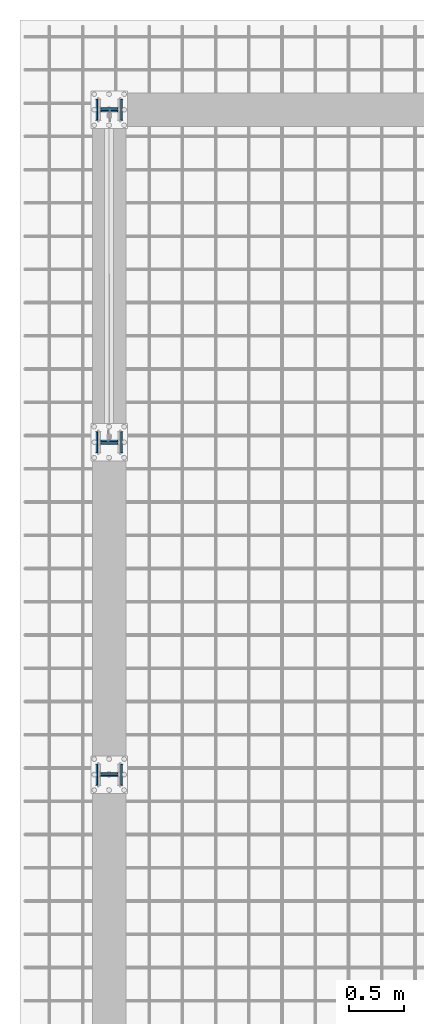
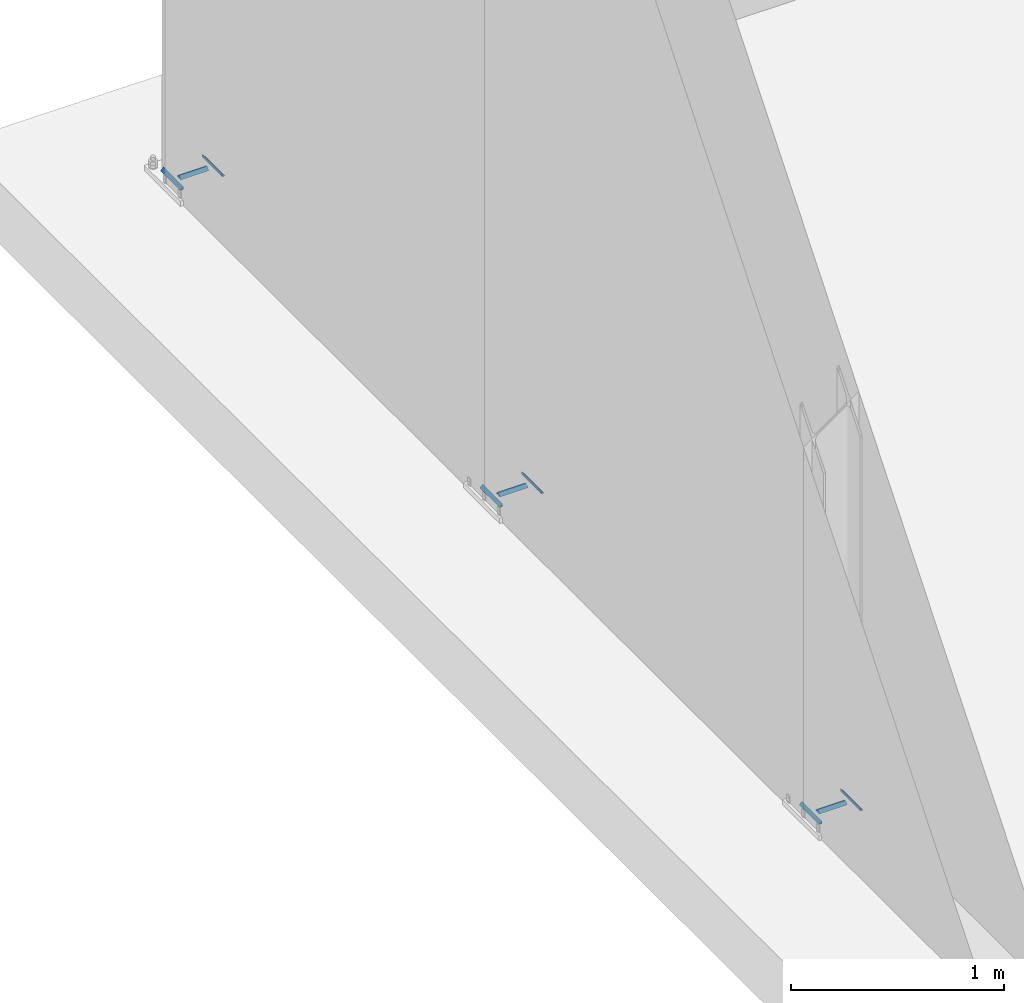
# One storey, part 9 of 29: 24 fasteners.
"""IFC4 building model written with IfcOpenShell, lengths in metres."""

from ifc_helpers import new_model, si_unit, frame, origin_with_axes, place, context, project, spatial, polyline, outline, extrude, type_object, element, save


model = new_model("IFC4")

# Units and contexts
model_context = context("Model", 3, precision=1e-05, world=origin_with_axes())
ifc_project = project(units=[si_unit("LENGTHUNIT", "METRE"), si_unit("AREAUNIT", "SQUARE_METRE"), si_unit("VOLUMEUNIT", "CUBIC_METRE"), si_unit("MASSUNIT", "GRAM", prefix="KILO"), si_unit("TIMEUNIT", "SECOND"), si_unit("PLANEANGLEUNIT", "RADIAN"), si_unit("SOLIDANGLEUNIT", "STERADIAN"), si_unit("THERMODYNAMICTEMPERATUREUNIT", "DEGREE_CELSIUS")], contexts=[model_context])

# Site, building, storey
placement_1 = place(None, origin_with_axes())
site = spatial("IfcSite", under=ifc_project, at=placement_1, Name="Italia", CompositionType="ELEMENT")
building = spatial("IfcBuilding", under=site, at=placement_1, Name="Capannone", CompositionType="ELEMENT")
storey = spatial("IfcBuildingStorey", under=building, at=placement_1, Name="Storey 0", CompositionType="ELEMENT", Elevation=0.0)

# Fasteners
fastener_type_1 = type_object("IfcFastenerType", Name="Collegamenti 0001_0101 0002_0102 0003_0103 0004_0104 0005_0105 0006_0106 0007_0107 0008_0108 0009_0109 0010_0110 0011_0111 0012_0112", PredefinedType="WELD")
placement_2 = place(placement_1, origin_with_axes())
fastener_1_placement = place(placement_2, origin_with_axes())
element("IfcFastener", 1, at=fastener_1_placement, inside=storey, type_object=fastener_type_1, Name="Collegamenti 0001_0101 0002_0102 0003_0103 0004_0104 0005_0105 0006_0106 0007_0107 0008_0108 0009_0109 0010_0110 0011_0111 0012_0112", context=model_context, shape_type="SweptSolid", body=[
    extrude(outline(polyline([(0.0, 0.0), (0.0156882, 0.0161734), (0.0156882, 0.0), (0.0, 0.0)])), frame((-0.120638, 9.09405, 0.02995), z_axis=(0.0, -1.0, 0.0), x_axis=(1.0, 0.0, 0.0)), (0.0, 0.0, 1.0), 0.188101),
])
fastener_type_2 = type_object("IfcFastenerType", Name="Collegamenti 0001_0101 0002_0102 0003_0103 0004_0104 0005_0105 0006_0106 0007_0107 0008_0108 0009_0109 0010_0110 0011_0111 0012_0112", PredefinedType="WELD")
fastener_2_placement = place(placement_2, origin_with_axes())
element("IfcFastener", 2, at=fastener_2_placement, inside=storey, type_object=fastener_type_2, Name="Collegamenti 0001_0101 0002_0102 0003_0103 0004_0104 0005_0105 0006_0106 0007_0107 0008_0108 0009_0109 0010_0110 0011_0111 0012_0112", context=model_context, shape_type="SweptSolid", body=[
    extrude(outline(polyline([(0.0, 0.0), (0.0156882, 0.0161734), (0.0156882, 0.0), (0.0, 0.0)])), frame((0.120638, 8.90595, 0.02995), z_axis=(0.0, 1.0, 0.0), x_axis=(-1.0, 0.0, 0.0)), (0.0, 0.0, 1.0), 0.188101),
])
fastener_type_3 = type_object("IfcFastenerType", Name="Collegamenti 0001_0101 0002_0102 0003_0103 0004_0104 0005_0105 0006_0106 0007_0107 0008_0108 0009_0109 0010_0110 0011_0111 0012_0112", PredefinedType="WELD")
fastener_3_placement = place(placement_2, origin_with_axes())
element("IfcFastener", 3, at=fastener_3_placement, inside=storey, type_object=fastener_type_3, Name="Collegamenti 0001_0101 0002_0102 0003_0103 0004_0104 0005_0105 0006_0106 0007_0107 0008_0108 0009_0109 0010_0110 0011_0111 0012_0112", context=model_context, shape_type="SweptSolid", body=[
    extrude(outline(polyline([(0.0, 0.0), (0.0156879, 0.0161734), (0.0156879, 0.0), (0.0, 0.0)])), frame((0.07605, 9.01914, 0.02995), z_axis=(-1.0, 0.0, 0.0), x_axis=(0.0, -1.0, 0.0)), (0.0, 0.0, 1.0), 0.1521),
])
fastener_type_4 = type_object("IfcFastenerType", Name="Collegamenti 0001_0101 0002_0102 0003_0103 0004_0104 0005_0105 0006_0106 0007_0107 0008_0108 0009_0109 0010_0110 0011_0111 0012_0112", PredefinedType="WELD")
fastener_4_placement = place(placement_2, origin_with_axes())
element("IfcFastener", 4, at=fastener_4_placement, inside=storey, type_object=fastener_type_4, Name="Collegamenti 0001_0101 0002_0102 0003_0103 0004_0104 0005_0105 0006_0106 0007_0107 0008_0108 0009_0109 0010_0110 0011_0111 0012_0112", context=model_context, shape_type="SweptSolid", body=[
    extrude(outline(polyline([(0.0, 0.0), (0.0156879, 0.0161734), (0.0156879, 0.0), (0.0, 0.0)])), frame((-0.07605, 8.98086, 0.02995), z_axis=(1.0, 0.0, 0.0), x_axis=(0.0, 1.0, 0.0)), (0.0, 0.0, 1.0), 0.1521),
])
fastener_type_5 = type_object("IfcFastenerType", Name="Collegamenti 0001_0101 0002_0102 0003_0103 0004_0104 0005_0105 0006_0106 0007_0107 0008_0108 0009_0109 0010_0110 0011_0111 0012_0112", PredefinedType="WELD")
fastener_5_placement = place(placement_2, origin_with_axes())
element("IfcFastener", 5, at=fastener_5_placement, inside=storey, type_object=fastener_type_5, Name="Collegamenti 0001_0101 0002_0102 0003_0103 0004_0104 0005_0105 0006_0106 0007_0107 0008_0108 0009_0109 0010_0110 0011_0111 0012_0112", context=model_context, shape_type="SweptSolid", body=[
    extrude(outline(polyline([(0.0, 0.0), (0.0156882, 0.0161734), (0.0156882, 0.0), (0.0, 0.0)])), frame((-0.120638, 9.09405, 0.02995), z_axis=(0.0, -1.0, 0.0), x_axis=(1.0, 0.0, 0.0)), (0.0, 0.0, 1.0), 0.188101),
])
fastener_type_6 = type_object("IfcFastenerType", Name="Collegamenti 0001_0101 0002_0102 0003_0103 0004_0104 0005_0105 0006_0106 0007_0107 0008_0108 0009_0109 0010_0110 0011_0111 0012_0112", PredefinedType="WELD")
fastener_6_placement = place(placement_2, origin_with_axes())
element("IfcFastener", 6, at=fastener_6_placement, inside=storey, type_object=fastener_type_6, Name="Collegamenti 0001_0101 0002_0102 0003_0103 0004_0104 0005_0105 0006_0106 0007_0107 0008_0108 0009_0109 0010_0110 0011_0111 0012_0112", context=model_context, shape_type="SweptSolid", body=[
    extrude(outline(polyline([(0.0, 0.0), (0.0156882, 0.0161734), (0.0156882, 0.0), (0.0, 0.0)])), frame((0.120638, 8.90595, 0.02995), z_axis=(0.0, 1.0, 0.0), x_axis=(-1.0, 0.0, 0.0)), (0.0, 0.0, 1.0), 0.188101),
])
fastener_type_7 = type_object("IfcFastenerType", Name="Collegamenti 0001_0101 0002_0102 0003_0103 0004_0104 0005_0105 0006_0106 0007_0107 0008_0108 0009_0109 0010_0110 0011_0111 0012_0112", PredefinedType="WELD")
fastener_7_placement = place(placement_2, origin_with_axes())
element("IfcFastener", 7, at=fastener_7_placement, inside=storey, type_object=fastener_type_7, Name="Collegamenti 0001_0101 0002_0102 0003_0103 0004_0104 0005_0105 0006_0106 0007_0107 0008_0108 0009_0109 0010_0110 0011_0111 0012_0112", context=model_context, shape_type="SweptSolid", body=[
    extrude(outline(polyline([(0.0, 0.0), (0.0156879, 0.0161734), (0.0156879, 0.0), (0.0, 0.0)])), frame((0.07605, 9.01914, 0.02995), z_axis=(-1.0, 0.0, 0.0), x_axis=(0.0, -1.0, 0.0)), (0.0, 0.0, 1.0), 0.1521),
])
fastener_type_8 = type_object("IfcFastenerType", Name="Collegamenti 0001_0101 0002_0102 0003_0103 0004_0104 0005_0105 0006_0106 0007_0107 0008_0108 0009_0109 0010_0110 0011_0111 0012_0112", PredefinedType="WELD")
fastener_8_placement = place(placement_2, origin_with_axes())
element("IfcFastener", 8, at=fastener_8_placement, inside=storey, type_object=fastener_type_8, Name="Collegamenti 0001_0101 0002_0102 0003_0103 0004_0104 0005_0105 0006_0106 0007_0107 0008_0108 0009_0109 0010_0110 0011_0111 0012_0112", context=model_context, shape_type="SweptSolid", body=[
    extrude(outline(polyline([(0.0, 0.0), (0.0156879, 0.0161734), (0.0156879, 0.0), (0.0, 0.0)])), frame((-0.07605, 8.98086, 0.02995), z_axis=(1.0, 0.0, 0.0), x_axis=(0.0, 1.0, 0.0)), (0.0, 0.0, 1.0), 0.1521),
])
fastener_type_9 = type_object("IfcFastenerType", Name="Collegamenti 0001_0101 0002_0102 0003_0103 0004_0104 0005_0105 0006_0106 0007_0107 0008_0108 0009_0109 0010_0110 0011_0111 0012_0112", PredefinedType="WELD")
fastener_9_placement = place(placement_2, origin_with_axes())
element("IfcFastener", 9, at=fastener_9_placement, inside=storey, type_object=fastener_type_9, Name="Collegamenti 0001_0101 0002_0102 0003_0103 0004_0104 0005_0105 0006_0106 0007_0107 0008_0108 0009_0109 0010_0110 0011_0111 0012_0112", context=model_context, shape_type="SweptSolid", body=[
    extrude(outline(polyline([(0.0, 0.0), (0.0156882, 0.0161734), (0.0156882, 0.0), (0.0, 0.0)])), frame((-0.120638, 12.0941, 0.02995), z_axis=(0.0, -1.0, 0.0), x_axis=(1.0, 0.0, 0.0)), (0.0, 0.0, 1.0), 0.188101),
])
fastener_type_10 = type_object("IfcFastenerType", Name="Collegamenti 0001_0101 0002_0102 0003_0103 0004_0104 0005_0105 0006_0106 0007_0107 0008_0108 0009_0109 0010_0110 0011_0111 0012_0112", PredefinedType="WELD")
fastener_10_placement = place(placement_2, origin_with_axes())
element("IfcFastener", 10, at=fastener_10_placement, inside=storey, type_object=fastener_type_10, Name="Collegamenti 0001_0101 0002_0102 0003_0103 0004_0104 0005_0105 0006_0106 0007_0107 0008_0108 0009_0109 0010_0110 0011_0111 0012_0112", context=model_context, shape_type="SweptSolid", body=[
    extrude(outline(polyline([(0.0, 0.0), (0.0156882, 0.0161734), (0.0156882, 0.0), (0.0, 0.0)])), frame((0.120638, 11.9059, 0.02995), z_axis=(0.0, 1.0, 0.0), x_axis=(-1.0, 0.0, 0.0)), (0.0, 0.0, 1.0), 0.188101),
])
fastener_type_11 = type_object("IfcFastenerType", Name="Collegamenti 0001_0101 0002_0102 0003_0103 0004_0104 0005_0105 0006_0106 0007_0107 0008_0108 0009_0109 0010_0110 0011_0111 0012_0112", PredefinedType="WELD")
fastener_11_placement = place(placement_2, origin_with_axes())
element("IfcFastener", 11, at=fastener_11_placement, inside=storey, type_object=fastener_type_11, Name="Collegamenti 0001_0101 0002_0102 0003_0103 0004_0104 0005_0105 0006_0106 0007_0107 0008_0108 0009_0109 0010_0110 0011_0111 0012_0112", context=model_context, shape_type="SweptSolid", body=[
    extrude(outline(polyline([(0.0, 0.0), (0.0156879, 0.0161734), (0.0156879, 0.0), (0.0, 0.0)])), frame((0.07605, 12.0191, 0.02995), z_axis=(-1.0, 0.0, 0.0), x_axis=(0.0, -1.0, 0.0)), (0.0, 0.0, 1.0), 0.1521),
])
fastener_type_12 = type_object("IfcFastenerType", Name="Collegamenti 0001_0101 0002_0102 0003_0103 0004_0104 0005_0105 0006_0106 0007_0107 0008_0108 0009_0109 0010_0110 0011_0111 0012_0112", PredefinedType="WELD")
fastener_12_placement = place(placement_2, origin_with_axes())
element("IfcFastener", 12, at=fastener_12_placement, inside=storey, type_object=fastener_type_12, Name="Collegamenti 0001_0101 0002_0102 0003_0103 0004_0104 0005_0105 0006_0106 0007_0107 0008_0108 0009_0109 0010_0110 0011_0111 0012_0112", context=model_context, shape_type="SweptSolid", body=[
    extrude(outline(polyline([(0.0, 0.0), (0.0156879, 0.0161734), (0.0156879, 0.0), (0.0, 0.0)])), frame((-0.07605, 11.9809, 0.02995), z_axis=(1.0, 0.0, 0.0), x_axis=(0.0, 1.0, 0.0)), (0.0, 0.0, 1.0), 0.1521),
])
fastener_type_13 = type_object("IfcFastenerType", Name="Collegamenti 0001_0101 0002_0102 0003_0103 0004_0104 0005_0105 0006_0106 0007_0107 0008_0108 0009_0109 0010_0110 0011_0111 0012_0112", PredefinedType="WELD")
fastener_13_placement = place(placement_2, origin_with_axes())
element("IfcFastener", 13, at=fastener_13_placement, inside=storey, type_object=fastener_type_13, Name="Collegamenti 0001_0101 0002_0102 0003_0103 0004_0104 0005_0105 0006_0106 0007_0107 0008_0108 0009_0109 0010_0110 0011_0111 0012_0112", context=model_context, shape_type="SweptSolid", body=[
    extrude(outline(polyline([(0.0, 0.0), (0.0156882, 0.0161734), (0.0156882, 0.0), (0.0, 0.0)])), frame((-0.120638, 12.0941, 0.02995), z_axis=(0.0, -1.0, 0.0), x_axis=(1.0, 0.0, 0.0)), (0.0, 0.0, 1.0), 0.188101),
])
fastener_type_14 = type_object("IfcFastenerType", Name="Collegamenti 0001_0101 0002_0102 0003_0103 0004_0104 0005_0105 0006_0106 0007_0107 0008_0108 0009_0109 0010_0110 0011_0111 0012_0112", PredefinedType="WELD")
fastener_14_placement = place(placement_2, origin_with_axes())
element("IfcFastener", 14, at=fastener_14_placement, inside=storey, type_object=fastener_type_14, Name="Collegamenti 0001_0101 0002_0102 0003_0103 0004_0104 0005_0105 0006_0106 0007_0107 0008_0108 0009_0109 0010_0110 0011_0111 0012_0112", context=model_context, shape_type="SweptSolid", body=[
    extrude(outline(polyline([(0.0, 0.0), (0.0156882, 0.0161734), (0.0156882, 0.0), (0.0, 0.0)])), frame((0.120638, 11.9059, 0.02995), z_axis=(0.0, 1.0, 0.0), x_axis=(-1.0, 0.0, 0.0)), (0.0, 0.0, 1.0), 0.188101),
])
fastener_type_15 = type_object("IfcFastenerType", Name="Collegamenti 0001_0101 0002_0102 0003_0103 0004_0104 0005_0105 0006_0106 0007_0107 0008_0108 0009_0109 0010_0110 0011_0111 0012_0112", PredefinedType="WELD")
fastener_15_placement = place(placement_2, origin_with_axes())
element("IfcFastener", 15, at=fastener_15_placement, inside=storey, type_object=fastener_type_15, Name="Collegamenti 0001_0101 0002_0102 0003_0103 0004_0104 0005_0105 0006_0106 0007_0107 0008_0108 0009_0109 0010_0110 0011_0111 0012_0112", context=model_context, shape_type="SweptSolid", body=[
    extrude(outline(polyline([(0.0, 0.0), (0.0156879, 0.0161734), (0.0156879, 0.0), (0.0, 0.0)])), frame((0.07605, 12.0191, 0.02995), z_axis=(-1.0, 0.0, 0.0), x_axis=(0.0, -1.0, 0.0)), (0.0, 0.0, 1.0), 0.1521),
])
fastener_type_16 = type_object("IfcFastenerType", Name="Collegamenti 0001_0101 0002_0102 0003_0103 0004_0104 0005_0105 0006_0106 0007_0107 0008_0108 0009_0109 0010_0110 0011_0111 0012_0112", PredefinedType="WELD")
fastener_16_placement = place(placement_2, origin_with_axes())
element("IfcFastener", 16, at=fastener_16_placement, inside=storey, type_object=fastener_type_16, Name="Collegamenti 0001_0101 0002_0102 0003_0103 0004_0104 0005_0105 0006_0106 0007_0107 0008_0108 0009_0109 0010_0110 0011_0111 0012_0112", context=model_context, shape_type="SweptSolid", body=[
    extrude(outline(polyline([(0.0, 0.0), (0.0156879, 0.0161734), (0.0156879, 0.0), (0.0, 0.0)])), frame((-0.07605, 11.9809, 0.02995), z_axis=(1.0, 0.0, 0.0), x_axis=(0.0, 1.0, 0.0)), (0.0, 0.0, 1.0), 0.1521),
])
fastener_type_17 = type_object("IfcFastenerType", Name="Collegamenti 0001_0101 0002_0102 0003_0103 0004_0104 0005_0105 0006_0106 0007_0107 0008_0108 0009_0109 0010_0110 0011_0111 0012_0112", PredefinedType="WELD")
fastener_17_placement = place(placement_2, origin_with_axes())
element("IfcFastener", 17, at=fastener_17_placement, inside=storey, type_object=fastener_type_17, Name="Collegamenti 0001_0101 0002_0102 0003_0103 0004_0104 0005_0105 0006_0106 0007_0107 0008_0108 0009_0109 0010_0110 0011_0111 0012_0112", context=model_context, shape_type="SweptSolid", body=[
    extrude(outline(polyline([(0.0, 0.0), (0.0156882, 0.0161734), (0.0156882, 0.0), (0.0, 0.0)])), frame((-0.120638, 15.0941, 0.02995), z_axis=(0.0, -1.0, 0.0), x_axis=(1.0, 0.0, 0.0)), (0.0, 0.0, 1.0), 0.188101),
])
fastener_type_18 = type_object("IfcFastenerType", Name="Collegamenti 0001_0101 0002_0102 0003_0103 0004_0104 0005_0105 0006_0106 0007_0107 0008_0108 0009_0109 0010_0110 0011_0111 0012_0112", PredefinedType="WELD")
fastener_18_placement = place(placement_2, origin_with_axes())
element("IfcFastener", 18, at=fastener_18_placement, inside=storey, type_object=fastener_type_18, Name="Collegamenti 0001_0101 0002_0102 0003_0103 0004_0104 0005_0105 0006_0106 0007_0107 0008_0108 0009_0109 0010_0110 0011_0111 0012_0112", context=model_context, shape_type="SweptSolid", body=[
    extrude(outline(polyline([(0.0, 0.0), (0.0156882, 0.0161734), (0.0156882, 0.0), (0.0, 0.0)])), frame((0.120638, 14.9059, 0.02995), z_axis=(0.0, 1.0, 0.0), x_axis=(-1.0, 0.0, 0.0)), (0.0, 0.0, 1.0), 0.188101),
])
fastener_type_19 = type_object("IfcFastenerType", Name="Collegamenti 0001_0101 0002_0102 0003_0103 0004_0104 0005_0105 0006_0106 0007_0107 0008_0108 0009_0109 0010_0110 0011_0111 0012_0112", PredefinedType="WELD")
fastener_19_placement = place(placement_2, origin_with_axes())
element("IfcFastener", 19, at=fastener_19_placement, inside=storey, type_object=fastener_type_19, Name="Collegamenti 0001_0101 0002_0102 0003_0103 0004_0104 0005_0105 0006_0106 0007_0107 0008_0108 0009_0109 0010_0110 0011_0111 0012_0112", context=model_context, shape_type="SweptSolid", body=[
    extrude(outline(polyline([(0.0, 0.0), (0.0156879, 0.0161734), (0.0156879, 0.0), (0.0, 0.0)])), frame((0.07605, 15.0191, 0.02995), z_axis=(-1.0, 0.0, 0.0), x_axis=(0.0, -1.0, 0.0)), (0.0, 0.0, 1.0), 0.1521),
])
fastener_type_20 = type_object("IfcFastenerType", Name="Collegamenti 0001_0101 0002_0102 0003_0103 0004_0104 0005_0105 0006_0106 0007_0107 0008_0108 0009_0109 0010_0110 0011_0111 0012_0112", PredefinedType="WELD")
fastener_20_placement = place(placement_2, origin_with_axes())
element("IfcFastener", 20, at=fastener_20_placement, inside=storey, type_object=fastener_type_20, Name="Collegamenti 0001_0101 0002_0102 0003_0103 0004_0104 0005_0105 0006_0106 0007_0107 0008_0108 0009_0109 0010_0110 0011_0111 0012_0112", context=model_context, shape_type="SweptSolid", body=[
    extrude(outline(polyline([(0.0, 0.0), (0.0156879, 0.0161734), (0.0156879, 0.0), (0.0, 0.0)])), frame((-0.07605, 14.9809, 0.02995), z_axis=(1.0, 0.0, 0.0), x_axis=(0.0, 1.0, 0.0)), (0.0, 0.0, 1.0), 0.1521),
])
fastener_type_21 = type_object("IfcFastenerType", Name="Collegamenti 0001_0101 0002_0102 0003_0103 0004_0104 0005_0105 0006_0106 0007_0107 0008_0108 0009_0109 0010_0110 0011_0111 0012_0112", PredefinedType="WELD")
fastener_21_placement = place(placement_2, origin_with_axes())
element("IfcFastener", 21, at=fastener_21_placement, inside=storey, type_object=fastener_type_21, Name="Collegamenti 0001_0101 0002_0102 0003_0103 0004_0104 0005_0105 0006_0106 0007_0107 0008_0108 0009_0109 0010_0110 0011_0111 0012_0112", context=model_context, shape_type="SweptSolid", body=[
    extrude(outline(polyline([(0.0, 0.0), (0.0156882, 0.0161734), (0.0156882, 0.0), (0.0, 0.0)])), frame((-0.120638, 15.0941, 0.02995), z_axis=(0.0, -1.0, 0.0), x_axis=(1.0, 0.0, 0.0)), (0.0, 0.0, 1.0), 0.188101),
])
fastener_type_22 = type_object("IfcFastenerType", Name="Collegamenti 0001_0101 0002_0102 0003_0103 0004_0104 0005_0105 0006_0106 0007_0107 0008_0108 0009_0109 0010_0110 0011_0111 0012_0112", PredefinedType="WELD")
fastener_22_placement = place(placement_2, origin_with_axes())
element("IfcFastener", 22, at=fastener_22_placement, inside=storey, type_object=fastener_type_22, Name="Collegamenti 0001_0101 0002_0102 0003_0103 0004_0104 0005_0105 0006_0106 0007_0107 0008_0108 0009_0109 0010_0110 0011_0111 0012_0112", context=model_context, shape_type="SweptSolid", body=[
    extrude(outline(polyline([(0.0, 0.0), (0.0156882, 0.0161734), (0.0156882, 0.0), (0.0, 0.0)])), frame((0.120638, 14.9059, 0.02995), z_axis=(0.0, 1.0, 0.0), x_axis=(-1.0, 0.0, 0.0)), (0.0, 0.0, 1.0), 0.188101),
])
fastener_type_23 = type_object("IfcFastenerType", Name="Collegamenti 0001_0101 0002_0102 0003_0103 0004_0104 0005_0105 0006_0106 0007_0107 0008_0108 0009_0109 0010_0110 0011_0111 0012_0112", PredefinedType="WELD")
fastener_23_placement = place(placement_2, origin_with_axes())
element("IfcFastener", 23, at=fastener_23_placement, inside=storey, type_object=fastener_type_23, Name="Collegamenti 0001_0101 0002_0102 0003_0103 0004_0104 0005_0105 0006_0106 0007_0107 0008_0108 0009_0109 0010_0110 0011_0111 0012_0112", context=model_context, shape_type="SweptSolid", body=[
    extrude(outline(polyline([(0.0, 0.0), (0.0156879, 0.0161734), (0.0156879, 0.0), (0.0, 0.0)])), frame((0.07605, 15.0191, 0.02995), z_axis=(-1.0, 0.0, 0.0), x_axis=(0.0, -1.0, 0.0)), (0.0, 0.0, 1.0), 0.1521),
])
fastener_type_24 = type_object("IfcFastenerType", Name="Collegamenti 0001_0101 0002_0102 0003_0103 0004_0104 0005_0105 0006_0106 0007_0107 0008_0108 0009_0109 0010_0110 0011_0111 0012_0112", PredefinedType="WELD")
fastener_24_placement = place(placement_2, origin_with_axes())
element("IfcFastener", 24, at=fastener_24_placement, inside=storey, type_object=fastener_type_24, Name="Collegamenti 0001_0101 0002_0102 0003_0103 0004_0104 0005_0105 0006_0106 0007_0107 0008_0108 0009_0109 0010_0110 0011_0111 0012_0112", context=model_context, shape_type="SweptSolid", body=[
    extrude(outline(polyline([(0.0, 0.0), (0.0156879, 0.0161734), (0.0156879, 0.0), (0.0, 0.0)])), frame((-0.07605, 14.9809, 0.02995), z_axis=(1.0, 0.0, 0.0), x_axis=(0.0, 1.0, 0.0)), (0.0, 0.0, 1.0), 0.1521),
])

save(model, "model.ifc")
